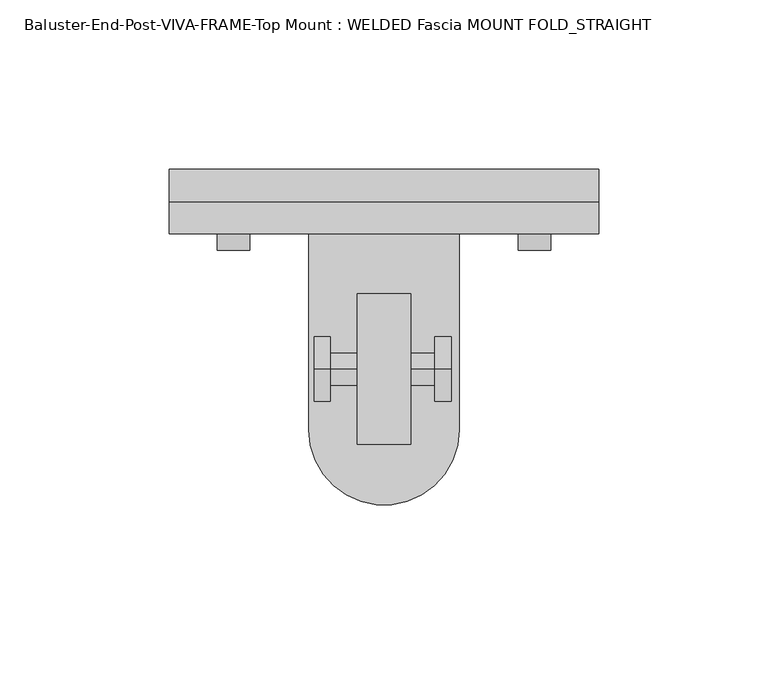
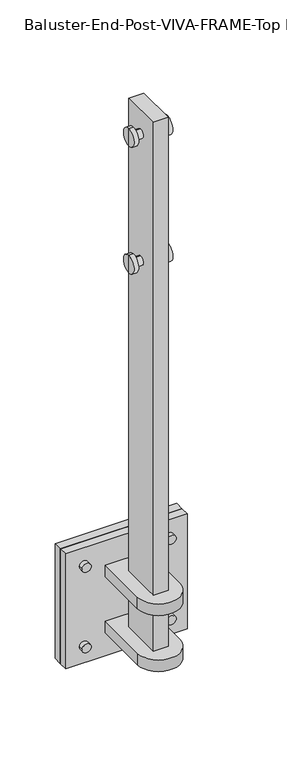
"""IFC4 building model written with IfcOpenShell, lengths in millimetres: proxy geometry, Baluster-End-Post-VIVA-FRAME-Top Mount : WELDED Fascia MOUNT FOLD_STRAIGHT."""

from ifc_helpers import new_model, si_unit, point, frame, frame_2d, origin, place, context, project, spatial, polyline, circle_curve, trimmed, segment, composite_curve, outline, extrude, source, transform, mapped, element, save
from ifc_brep_helpers import plane_surface, cylinder_surface, advanced_brep


def baluster_end_post_viva_frame_top_mount_welded_fascia_mount_f3869cb3(model_context):
    return source(origin(), model_context, "Body", "SolidModel", [
        extrude(outline(polyline([(7.9375, -153.1423118), (-7.9375, -153.1423118), (-7.9375, -108.6923118), (7.9375, -108.6923118), (7.9375, -153.1423118)])), frame((0.0, 0.0, -183.7786931), z_axis=(0.0, 0.0, 1.0), x_axis=(1.0, 0.0, 0.0)), (0.0, 0.0, 1.0), 590.6930486),
        extrude(outline(composite_curve([segment(polyline([(-22.225, -148.7552651), (-22.225, -90.8543584), (22.225, -90.8543584), (22.225, -148.7552651)]), True, "CONTINUOUS"), segment(trimmed(circle_curve(frame_2d((0.0, -148.7552651)), 22.225), [point((22.225, -148.7552651))], [point((-22.225, -148.7552651))], False, "CARTESIAN"), True, "CONTINUOUS")], self_intersect=False)), frame((0.0, 0.0, -190.0345072), z_axis=(0.0, 0.0, 1.0), x_axis=(1.0, 0.0, 0.0)), (0.0, 0.0, 1.0), 12.7),
        extrude(outline(composite_curve([segment(polyline([(22.225, -90.8543584), (22.225, -148.7552651)]), True, "CONTINUOUS"), segment(trimmed(circle_curve(frame_2d((0.0, -148.7552651)), 22.225), [point((22.225, -148.7552651))], [point((-22.225, -148.7552651))], False, "CARTESIAN"), True, "CONTINUOUS"), segment(polyline([(-22.225, -148.7552651), (-22.225, -90.8543584), (22.225, -90.8543584)]), True, "CONTINUOUS")], self_intersect=False)), frame((0.0, 0.0, -128.1093072), z_axis=(0.0, 0.0, 1.0), x_axis=(1.0, 0.0, 0.0)), (0.0, 0.0, 1.0), 12.7),
        extrude(outline(composite_curve([segment(trimmed(circle_curve(frame_2d((-107.4591072, 44.4449319)), 4.7752), [point((-107.4591072, 49.2201319))], [point((-107.4591072, 39.6697319))], False, "CARTESIAN"), True, "CONTINUOUS"), segment(trimmed(circle_curve(frame_2d((-107.4591072, 44.4449319)), 4.7752), [point((-107.4591072, 39.6697319))], [point((-107.4591072, 49.2201319))], False, "CARTESIAN"), True, "CONTINUOUS")], self_intersect=False)), frame((0.0, -95.6295584, 0.0), z_axis=(0.0, 1.0, 0.0), x_axis=(0.0, 0.0, 1.0)), (0.0, 0.0, 1.0), 14.3002),
        extrude(outline(composite_curve([segment(trimmed(circle_curve(frame_2d((-107.4591072, -44.4449319)), 4.7752), [point((-107.4591072, -39.6697319))], [point((-107.4591072, -49.2201319))], False, "CARTESIAN"), True, "CONTINUOUS"), segment(trimmed(circle_curve(frame_2d((-107.4591072, -44.4449319)), 4.7752), [point((-107.4591072, -49.2201319))], [point((-107.4591072, -39.6697319))], False, "CARTESIAN"), True, "CONTINUOUS")], self_intersect=False)), frame((0.0, -95.6295584, 0.0), z_axis=(0.0, 1.0, 0.0), x_axis=(0.0, 0.0, 1.0)), (0.0, 0.0, 1.0), 14.3002),
        extrude(outline(composite_curve([segment(trimmed(circle_curve(frame_2d((-196.3591072, -44.4449319)), 4.7752), [point((-196.3591072, -39.6697319))], [point((-196.3591072, -49.2201319))], False, "CARTESIAN"), True, "CONTINUOUS"), segment(trimmed(circle_curve(frame_2d((-196.3591072, -44.4449319)), 4.7752), [point((-196.3591072, -49.2201319))], [point((-196.3591072, -39.6697319))], False, "CARTESIAN"), True, "CONTINUOUS")], self_intersect=False)), frame((0.0, -95.6295584, 0.0), z_axis=(0.0, 1.0, 0.0), x_axis=(0.0, 0.0, 1.0)), (0.0, 0.0, 1.0), 14.3002),
        extrude(outline(composite_curve([segment(trimmed(circle_curve(frame_2d((-196.3591072, 44.4449319)), 4.7752), [point((-196.3591072, 49.2201319))], [point((-196.3591072, 39.6697319))], False, "CARTESIAN"), True, "CONTINUOUS"), segment(trimmed(circle_curve(frame_2d((-196.3591072, 44.4449319)), 4.7752), [point((-196.3591072, 39.6697319))], [point((-196.3591072, 49.2201319))], False, "CARTESIAN"), True, "CONTINUOUS")], self_intersect=False)), frame((0.0, -95.6295584, 0.0), z_axis=(0.0, 1.0, 0.0), x_axis=(0.0, 0.0, 1.0)), (0.0, 0.0, 1.0), 14.3002),
        extrude(outline(polyline([(63.4980216, -81.3293584), (-63.4980216, -81.3293584), (-63.4980216, -71.8043584), (63.4980216, -71.8043584), (63.4980216, -81.3293584)])), frame((0.0, 0.0, -215.4091072), z_axis=(0.0, 0.0, 1.0), x_axis=(1.0, 0.0, 0.0)), (0.0, 0.0, 1.0), 127.0),
        extrude(outline(polyline([(63.4980216, -90.8543584), (-63.4980216, -90.8543584), (-63.4980216, -81.3293584), (63.4980216, -81.3293584), (63.4980216, -90.8543584)])), frame((0.0, 0.0, -215.4091072), z_axis=(0.0, 0.0, 1.0), x_axis=(1.0, 0.0, 0.0)), (0.0, 0.0, 1.0), 127.0),
        advanced_brep(
        [(-20.6502, -130.9116, 231.7496), (-20.6502, -130.9116, 250.8504), (-20.6502, -130.9116, 241.3), (-15.875, -130.9116, 231.7496), (-15.875, -130.9116, 250.8504), (-15.875, -130.9116, 236.5248), (-15.875, -130.9116, 246.0752), (15.0622, -130.9116, 236.5248), (15.0622, -130.9116, 246.0752), (15.0622, -130.9116, 231.7496), (15.0622, -130.9116, 250.8504), (19.8374, -130.9116, 231.7496), (19.8374, -130.9116, 250.8504), (19.8374, -130.9116, 241.3)],
        [
            (0, 1, circle_curve(frame((-20.6502, -130.9116, 241.3), z_axis=(-1.0, 0.0, 0.0), x_axis=(0.0, 0.0, 1.0)), 9.5504)),
            (1, 2),
            (2, 0),
            (1, 0, circle_curve(frame((-20.6502, -130.9116, 241.3), z_axis=(-1.0, 0.0, 0.0), x_axis=(0.0, 0.0, 1.0)), 9.5504)),
            (3, 4, circle_curve(frame((-15.875, -130.9116, 241.3), z_axis=(-1.0, 0.0, 0.0), x_axis=(0.0, 0.0, 1.0)), 9.5504)),
            (4, 1),
            (0, 3),
            (4, 3, circle_curve(frame((-15.875, -130.9116, 241.3), z_axis=(-1.0, 0.0, 0.0), x_axis=(0.0, 0.0, 1.0)), 9.5504)),
            (5, 6, circle_curve(frame((-15.875, -130.9116, 241.3), z_axis=(-1.0, 0.0, 0.0), x_axis=(0.0, 0.0, 1.0)), 4.7752)),
            (6, 4),
            (3, 5),
            (6, 5, circle_curve(frame((-15.875, -130.9116, 241.3), z_axis=(-1.0, 0.0, 0.0), x_axis=(0.0, 0.0, 1.0)), 4.7752)),
            (7, 8, circle_curve(frame((15.0622, -130.9116, 241.3), z_axis=(-1.0, 0.0, 0.0), x_axis=(0.0, 0.0, 1.0)), 4.7752)),
            (8, 6),
            (5, 7),
            (8, 7, circle_curve(frame((15.0622, -130.9116, 241.3), z_axis=(-1.0, 0.0, 0.0), x_axis=(0.0, 0.0, 1.0)), 4.7752)),
            (9, 10, circle_curve(frame((15.0622, -130.9116, 241.3), z_axis=(-1.0, 0.0, 0.0), x_axis=(0.0, 0.0, 1.0)), 9.5504)),
            (10, 8),
            (7, 9),
            (10, 9, circle_curve(frame((15.0622, -130.9116, 241.3), z_axis=(-1.0, 0.0, 0.0), x_axis=(0.0, 0.0, 1.0)), 9.5504)),
            (11, 12, circle_curve(frame((19.8374, -130.9116, 241.3), z_axis=(-1.0, 0.0, 0.0), x_axis=(0.0, 0.0, 1.0)), 9.5504)),
            (12, 10),
            (9, 11),
            (12, 11, circle_curve(frame((19.8374, -130.9116, 241.3), z_axis=(-1.0, 0.0, 0.0), x_axis=(0.0, 0.0, 1.0)), 9.5504)),
            (13, 12),
            (11, 13),
        ],
        [
            plane_surface(frame((-20.6502, -130.9116, 241.3), z_axis=(-1.0, 0.0, 0.0), x_axis=(0.0, 0.0, 1.0))),
            cylinder_surface(frame((-3412.2305571, -130.9116, 241.3), z_axis=(1.0, 0.0, 0.0), x_axis=(0.0, 0.0, 1.0)), 9.5504),
            plane_surface(frame((-15.875, -130.9116, 241.3), z_axis=(1.0, 0.0, 0.0), x_axis=(0.0, 0.0, 1.0))),
            cylinder_surface(frame((-3412.2305571, -130.9116, 241.3), z_axis=(1.0, 0.0, 0.0), x_axis=(0.0, 0.0, 1.0)), 4.7752),
            plane_surface(frame((15.0622, -130.9116, 241.3), z_axis=(-1.0, 0.0, 0.0), x_axis=(0.0, 0.0, 1.0))),
            plane_surface(frame((19.8374, -130.9116, 241.3), z_axis=(1.0, 0.0, 0.0), x_axis=(0.0, 0.0, 1.0))),
        ],
        [
            (0, [[1, 2, 3]]),
            (0, [[4, -3, -2]]),
            (1, [[5, 6, -1, 7]]),
            (1, [[8, -7, -4, -6]]),
            (2, [[9, 10, -5, 11]]),
            (2, [[12, -11, -8, -10]]),
            (3, [[13, 14, -9, 15]]),
            (3, [[16, -15, -12, -14]]),
            (4, [[17, 18, -13, 19]]),
            (4, [[20, -19, -16, -18]]),
            (1, [[21, 22, -17, 23]]),
            (1, [[24, -23, -20, -22]]),
            (5, [[25, -21, 26]]),
            (5, [[-26, -24, -25]]),
        ],
    ),
        advanced_brep(
        [(-20.6502, -130.9116, 371.9639555), (-20.6502, -130.9116, 391.0647555), (-20.6502, -130.9116, 381.5143555), (-15.875, -130.9116, 371.9639555), (-15.875, -130.9116, 391.0647555), (-15.875, -130.9116, 376.7391555), (-15.875, -130.9116, 386.2895555), (15.0622, -130.9116, 376.7391555), (15.0622, -130.9116, 386.2895555), (15.0622, -130.9116, 371.9639555), (15.0622, -130.9116, 391.0647555), (19.8374, -130.9116, 371.9639555), (19.8374, -130.9116, 391.0647555), (19.8374, -130.9116, 381.5143555)],
        [
            (0, 1, circle_curve(frame((-20.6502, -130.9116, 381.5143555), z_axis=(-1.0, 0.0, 0.0), x_axis=(0.0, 0.0, 1.0)), 9.5504)),
            (1, 2),
            (2, 0),
            (1, 0, circle_curve(frame((-20.6502, -130.9116, 381.5143555), z_axis=(-1.0, 0.0, 0.0), x_axis=(0.0, 0.0, 1.0)), 9.5504)),
            (3, 4, circle_curve(frame((-15.875, -130.9116, 381.5143555), z_axis=(-1.0, 0.0, 0.0), x_axis=(0.0, 0.0, 1.0)), 9.5504)),
            (4, 1),
            (0, 3),
            (4, 3, circle_curve(frame((-15.875, -130.9116, 381.5143555), z_axis=(-1.0, 0.0, 0.0), x_axis=(0.0, 0.0, 1.0)), 9.5504)),
            (5, 6, circle_curve(frame((-15.875, -130.9116, 381.5143555), z_axis=(-1.0, 0.0, 0.0), x_axis=(0.0, 0.0, 1.0)), 4.7752)),
            (6, 4),
            (3, 5),
            (6, 5, circle_curve(frame((-15.875, -130.9116, 381.5143555), z_axis=(-1.0, 0.0, 0.0), x_axis=(0.0, 0.0, 1.0)), 4.7752)),
            (7, 8, circle_curve(frame((15.0622, -130.9116, 381.5143555), z_axis=(-1.0, 0.0, 0.0), x_axis=(0.0, 0.0, 1.0)), 4.7752)),
            (8, 6),
            (5, 7),
            (8, 7, circle_curve(frame((15.0622, -130.9116, 381.5143555), z_axis=(-1.0, 0.0, 0.0), x_axis=(0.0, 0.0, 1.0)), 4.7752)),
            (9, 10, circle_curve(frame((15.0622, -130.9116, 381.5143555), z_axis=(-1.0, 0.0, 0.0), x_axis=(0.0, 0.0, 1.0)), 9.5504)),
            (10, 8),
            (7, 9),
            (10, 9, circle_curve(frame((15.0622, -130.9116, 381.5143555), z_axis=(-1.0, 0.0, 0.0), x_axis=(0.0, 0.0, 1.0)), 9.5504)),
            (11, 12, circle_curve(frame((19.8374, -130.9116, 381.5143555), z_axis=(-1.0, 0.0, 0.0), x_axis=(0.0, 0.0, 1.0)), 9.5504)),
            (12, 10),
            (9, 11),
            (12, 11, circle_curve(frame((19.8374, -130.9116, 381.5143555), z_axis=(-1.0, 0.0, 0.0), x_axis=(0.0, 0.0, 1.0)), 9.5504)),
            (13, 12),
            (11, 13),
        ],
        [
            plane_surface(frame((-20.6502, -130.9116, 381.5143555), z_axis=(-1.0, 0.0, 0.0), x_axis=(0.0, 0.0, 1.0))),
            cylinder_surface(frame((-3412.2305571, -130.9116, 381.5143555), z_axis=(1.0, 0.0, 0.0), x_axis=(0.0, 0.0, 1.0)), 9.5504),
            plane_surface(frame((-15.875, -130.9116, 381.5143555), z_axis=(1.0, 0.0, 0.0), x_axis=(0.0, 0.0, 1.0))),
            cylinder_surface(frame((-3412.2305571, -130.9116, 381.5143555), z_axis=(1.0, 0.0, 0.0), x_axis=(0.0, 0.0, 1.0)), 4.7752),
            plane_surface(frame((15.0622, -130.9116, 381.5143555), z_axis=(-1.0, 0.0, 0.0), x_axis=(0.0, 0.0, 1.0))),
            plane_surface(frame((19.8374, -130.9116, 381.5143555), z_axis=(1.0, 0.0, 0.0), x_axis=(0.0, 0.0, 1.0))),
        ],
        [
            (0, [[1, 2, 3]]),
            (0, [[4, -3, -2]]),
            (1, [[5, 6, -1, 7]]),
            (1, [[8, -7, -4, -6]]),
            (2, [[9, 10, -5, 11]]),
            (2, [[12, -11, -8, -10]]),
            (3, [[13, 14, -9, 15]]),
            (3, [[16, -15, -12, -14]]),
            (4, [[17, 18, -13, 19]]),
            (4, [[20, -19, -16, -18]]),
            (1, [[21, 22, -17, 23]]),
            (1, [[24, -23, -20, -22]]),
            (5, [[25, -21, 26]]),
            (5, [[-26, -24, -25]]),
        ],
    ),
    ])


if __name__ == "__main__":
    model = new_model("IFC4")
    model_context = context("Model", 3, world=origin())
    ifc_project = project(units=[si_unit("LENGTHUNIT", "METRE", prefix="MILLI")], contexts=[model_context])
    site = spatial("IfcSite", under=ifc_project)
    building = spatial("IfcBuilding", under=site)
    placement = place(None, origin())
    baluster_end_post_viva_frame_top_mount_welded_fascia_mount_shape = baluster_end_post_viva_frame_top_mount_welded_fascia_mount_f3869cb3(model_context)
    element("IfcBuildingElementProxy", 1, Name="Baluster-End-Post-VIVA-FRAME-Top Mount : WELDED Fascia MOUNT FOLD_STRAIGHT", ObjectType="Baluster-End-Post-VIVA-FRAME-Top Mount : WELDED Fascia MOUNT FOLD_STRAIGHT", at=placement, inside=building, context=model_context, shape_type="MappedRepresentation", body=[
        mapped(baluster_end_post_viva_frame_top_mount_welded_fascia_mount_shape, transform((0.0, 0.0, 0.0), x_axis=(1.0, 0.0, 0.0), y_axis=(0.0, 1.0, 0.0), z_axis=(0.0, 0.0, 1.0))),
    ])
    save(model, "model.ifc")
